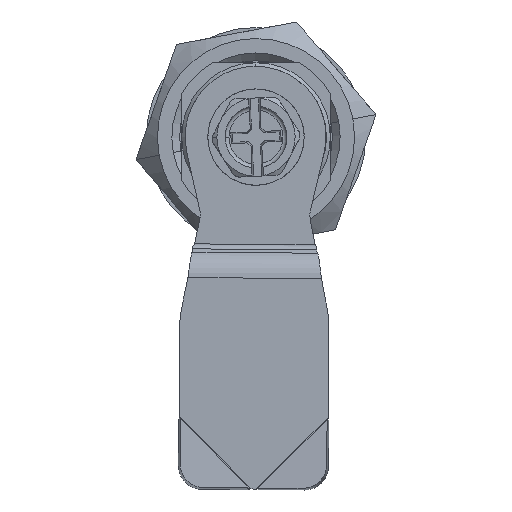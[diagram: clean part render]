
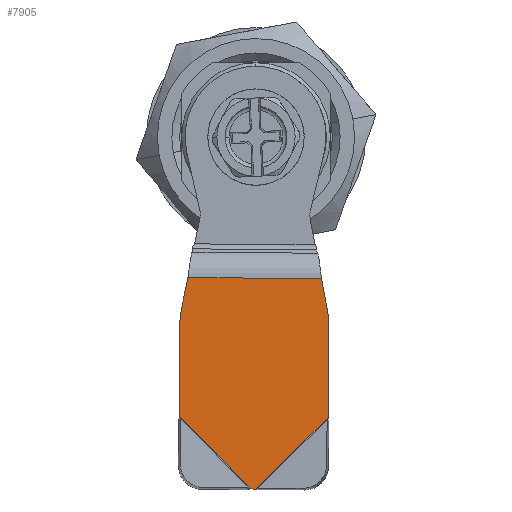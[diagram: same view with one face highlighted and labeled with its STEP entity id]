
A CAD part, front view. The second image highlights one B-rep face of the part: STEP entity #7905.
In plain terms, the highlighted planar face has unit normal (0, -1, 0) as drawn and (0, 0, -1) by its records, which use the part's own axes.
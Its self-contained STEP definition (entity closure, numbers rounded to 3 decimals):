
#238 = ORIENTED_EDGE ( 'NONE', *, *, #7963, .T. ) ;
#240 = VERTEX_POINT ( 'NONE', #758 ) ;
#758 = CARTESIAN_POINT ( 'NONE',  ( 35.804, -9.5, -3. ) ) ;
#1644 = CARTESIAN_POINT ( 'NONE',  ( 42., -9.5, -3. ) ) ;
#1645 = LINE ( 'NONE', #1644, #1680 ) ;
#1679 = DIRECTION ( 'NONE',  ( 1., 0., 0. ) ) ;
#1680 = VECTOR ( 'NONE', #1679, 1000. ) ;
#2043 = CARTESIAN_POINT ( 'NONE',  ( 35.804, 9.5, -3. ) ) ;
#3352 = CARTESIAN_POINT ( 'NONE',  ( 18.057, -8.531, -3. ) ) ;
#3383 = VECTOR ( 'NONE', #3414, 1000. ) ;
#3400 = DIRECTION ( 'NONE',  ( -1., 0., 0. ) ) ;
#3401 = VECTOR ( 'NONE', #3400, 1000. ) ;
#3404 = CARTESIAN_POINT ( 'NONE',  ( 42., 9.5, -3. ) ) ;
#3405 = LINE ( 'NONE', #3404, #3401 ) ;
#3411 = VECTOR ( 'NONE', #3417, 1000. ) ;
#3414 = DIRECTION ( 'NONE',  ( 0., 1., 0. ) ) ;
#3415 = CARTESIAN_POINT ( 'NONE',  ( 23., 9.5, -3. ) ) ;
#3417 = DIRECTION ( 'NONE',  ( -0.981, -0.192, 0. ) ) ;
#3418 = CARTESIAN_POINT ( 'NONE',  ( 10.481, 7.047, -3. ) ) ;
#3419 = LINE ( 'NONE', #3418, #3411 ) ;
#3421 = CARTESIAN_POINT ( 'NONE',  ( 18.057, -9.5, -3. ) ) ;
#3422 = LINE ( 'NONE', #3421, #3383 ) ;
#3423 = CARTESIAN_POINT ( 'NONE',  ( 18.057, 8.531, -3. ) ) ;
#3426 = CARTESIAN_POINT ( 'NONE',  ( 23., -9.5, -3. ) ) ;
#3435 = DIRECTION ( 'NONE',  ( 0.981, -0.192, 0. ) ) ;
#3436 = VECTOR ( 'NONE', #3435, 1000. ) ;
#3437 = CARTESIAN_POINT ( 'NONE',  ( 10.481, -7.047, -3. ) ) ;
#3439 = DIRECTION ( 'NONE',  ( -1., 0., 0. ) ) ;
#3440 = DIRECTION ( 'NONE',  ( 0., 0., -1. ) ) ;
#3441 = CARTESIAN_POINT ( 'NONE',  ( 8.403, -9.5, -3. ) ) ;
#3442 = AXIS2_PLACEMENT_3D ( 'NONE', #3441, #3440, #3439 ) ;
#3443 = PLANE ( 'NONE',  #3442 ) ;
#3449 = LINE ( 'NONE', #3437, #3436 ) ;
#3455 = FACE_OUTER_BOUND ( 'NONE', #7906, .T. ) ;
#3533 = DIRECTION ( 'NONE',  ( -0.707, -0.707, 0. ) ) ;
#3534 = VECTOR ( 'NONE', #3533, 1000. ) ;
#3539 = CARTESIAN_POINT ( 'NONE',  ( 45., 0.304, -3. ) ) ;
#3540 = DIRECTION ( 'NONE',  ( -0.707, 0.707, 0. ) ) ;
#3541 = VECTOR ( 'NONE', #3540, 1000. ) ;
#3542 = CARTESIAN_POINT ( 'NONE',  ( 32.402, 12.902, -3. ) ) ;
#3543 = LINE ( 'NONE', #3542, #3541 ) ;
#3545 = DIRECTION ( 'NONE',  ( 0., 1., 0. ) ) ;
#3546 = VECTOR ( 'NONE', #3545, 1000. ) ;
#3547 = CARTESIAN_POINT ( 'NONE',  ( 45., 6.5, -3. ) ) ;
#3548 = LINE ( 'NONE', #3547, #3546 ) ;
#3549 = CARTESIAN_POINT ( 'NONE',  ( 22.902, -22.402, -3. ) ) ;
#3550 = LINE ( 'NONE', #3549, #3534 ) ;
#3551 = CARTESIAN_POINT ( 'NONE',  ( 45., -0.304, -3. ) ) ;
#6898 = EDGE_CURVE ( 'NONE', #7889, #240, #1645, .T. ) ;
#7132 = VERTEX_POINT ( 'NONE', #2043 ) ;
#7848 = VERTEX_POINT ( 'NONE', #3352 ) ;
#7889 = VERTEX_POINT ( 'NONE', #3426 ) ;
#7890 = VERTEX_POINT ( 'NONE', #3423 ) ;
#7891 = ORIENTED_EDGE ( 'NONE', *, *, #7892, .T. ) ;
#7892 = EDGE_CURVE ( 'NONE', #7848, #7890, #3422, .T. ) ;
#7893 = ORIENTED_EDGE ( 'NONE', *, *, #7894, .F. ) ;
#7894 = EDGE_CURVE ( 'NONE', #7895, #7890, #3419, .T. ) ;
#7895 = VERTEX_POINT ( 'NONE', #3415 ) ;
#7897 = EDGE_CURVE ( 'NONE', #7132, #7895, #3405, .T. ) ;
#7898 = ORIENTED_EDGE ( 'NONE', *, *, #7897, .F. ) ;
#7905 = ADVANCED_FACE ( 'NONE', ( #3455 ), #3443, .T. ) ;
#7906 = EDGE_LOOP ( 'NONE', ( #7912, #7891, #7893, #7898, #7953, #7962, #238, #7960 ) ) ;
#7907 = EDGE_CURVE ( 'NONE', #7848, #7889, #3449, .T. ) ;
#7912 = ORIENTED_EDGE ( 'NONE', *, *, #7907, .F. ) ;
#7953 = ORIENTED_EDGE ( 'NONE', *, *, #7956, .F. ) ;
#7954 = EDGE_CURVE ( 'NONE', #7957, #7959, #3548, .T. ) ;
#7956 = EDGE_CURVE ( 'NONE', #7959, #7132, #3543, .T. ) ;
#7957 = VERTEX_POINT ( 'NONE', #3551 ) ;
#7959 = VERTEX_POINT ( 'NONE', #3539 ) ;
#7960 = ORIENTED_EDGE ( 'NONE', *, *, #6898, .F. ) ;
#7962 = ORIENTED_EDGE ( 'NONE', *, *, #7954, .F. ) ;
#7963 = EDGE_CURVE ( 'NONE', #7957, #240, #3550, .T. ) ;
